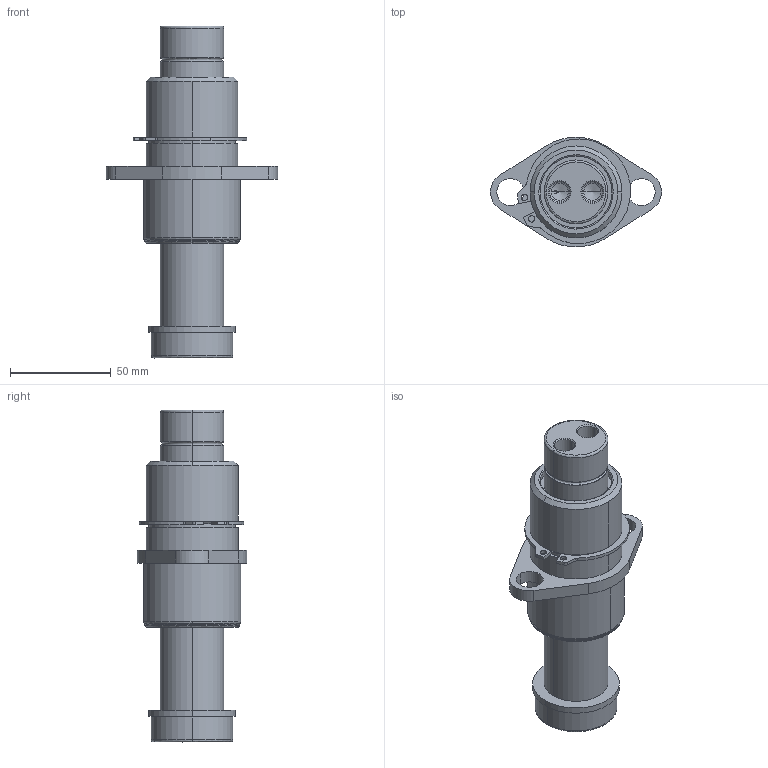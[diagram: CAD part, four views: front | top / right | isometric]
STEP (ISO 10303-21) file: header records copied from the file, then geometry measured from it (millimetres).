
FILE_DESCRIPTION (( 'STEP AP214' ), '1' );
FILE_NAME ('GK122-N3-2-TB-M-XXX.STEP', '2020-09-21T18:29:32', ( '' ), ( '' ), 'SwSTEP 2.0', 'SolidWorks 2017', '' );
FILE_SCHEMA (( 'AUTOMOTIVE_DESIGN' ));
Length unit declared in the file: inch
Products named in the file (7): RetainingRing; GK1.25-N3-2-TB-Base; GK122-M-XXX-GuidePin; GK122-N3-2-TB-M-XXX; GK122-DampeningWasher
Assembly tree (6 placements, depth 3):
  GK122-N3-2-TB-M-XXX
    GK1.25-N3-2-TB-Base
      GK1.25-N3-2-TB-Base
      RetainingRing
    GK122-M-XXX-GuidePin
      GK122-M-XXX-GuidePin
      GK122-DampeningWasher
Bounding box: 85.09 x 54.52 x 165.1 mm (x, y, z)
Volume: 215048.9 mm3; surface area: 51000.2 mm2
Topology: 4 solids, 4 shells, 123 faces, 285 edges, 174 vertices
Faces by surface type: cylinder 57, plane 24, cone 22, bspline 20
Entity records: 4198 total; most frequent: CARTESIAN_POINT 1017, DIRECTION 661, ORIENTED_EDGE 562, EDGE_CURVE 281, AXIS2_PLACEMENT_3D 276, VERTEX_POINT 174, CIRCLE 162, EDGE_LOOP 143
